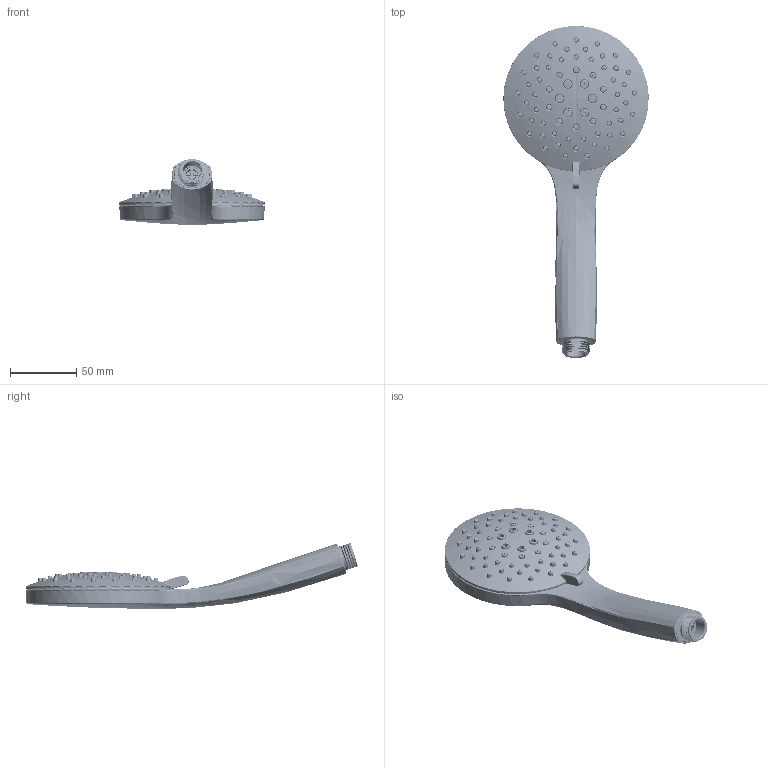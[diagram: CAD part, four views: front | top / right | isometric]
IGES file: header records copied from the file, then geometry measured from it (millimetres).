
Start section: SolidWorks IGES file using analytic representation for surfaces
Global section: file name: W:\mzhang7\7124\189315\sku_189315series_igs.IGS; native system: SolidWorks 2023; preprocessor: SolidWorks 2023; author: mzhang7; date: 250305.163359; units: inch
Bounding box: 109.98 x 251.39 x 50.03 mm (x, y, z)
Volume: 82099.2 mm3; surface area: 125024.8 mm2
Topology: 2 solids, 9 shells, 4757 faces, 12981 edges, 8116 vertices
Faces by surface type: revolution 2574, plane 1194, bspline 989
